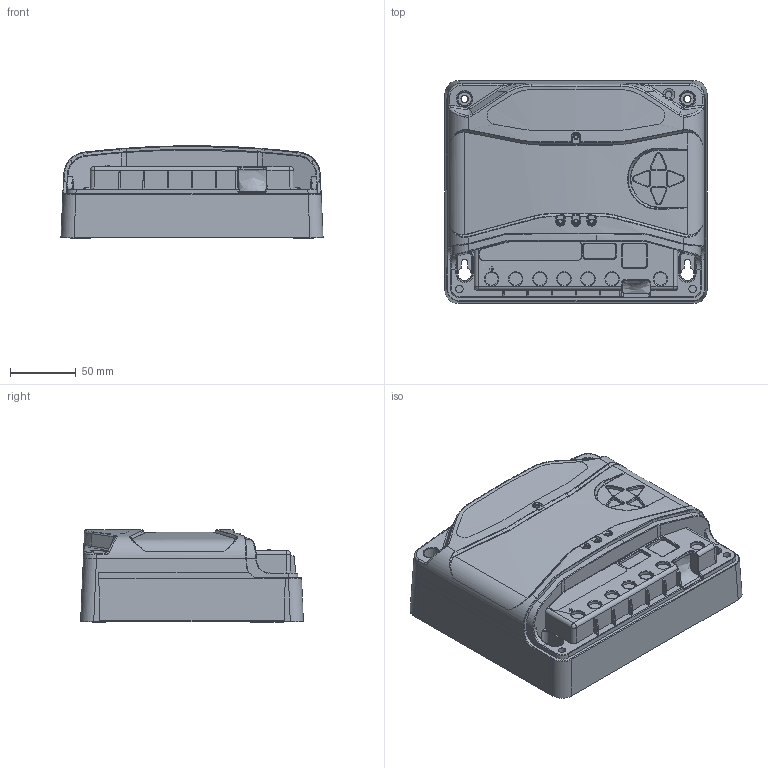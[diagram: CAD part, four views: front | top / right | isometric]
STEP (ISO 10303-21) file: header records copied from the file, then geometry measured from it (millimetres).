
FILE_DESCRIPTION(/* description */ ('Unknown'),/* implementation_level */ '2;1');
FILE_NAME(/* name */ 'booleantestppt',/* time_stamp */ '2017-01-18T11:27:15-05:00',/* author */ ('Unknown'),/* organization */ ('Unknown'),/* preprocessor_version */ 'ST-DEVELOPER v16.7',/* originating_system */ 'DEX',/* authorisation */ $);
FILE_SCHEMA (('AUTOMOTIVE_DESIGN {1 0 10303 214 3 1 1}'));
Length unit declared in the file: millimetre
Products named in the file (1): booleantestppt
Bounding box: 200 x 170 x 70.5 mm (x, y, z)
Volume: 1976038 mm3; surface area: 119849.9 mm2
Topology: 1 solids, 1 shells, 632 faces, 1571 edges, 936 vertices
Faces by surface type: bspline 216, plane 156, cylinder 127, cone 63, torus 60, sphere 10
Full cylindrical faces by diameter (mm): 5.74 x2
Entity records: 29817 total; most frequent: CARTESIAN_POINT 11894, ORIENTED_EDGE 2986, DIRECTION 2472, EDGE_CURVE 1493, AXIS2_PLACEMENT_3D 985, VERTEX_POINT 924, EDGE_LOOP 701, FACE_BOUND 701
